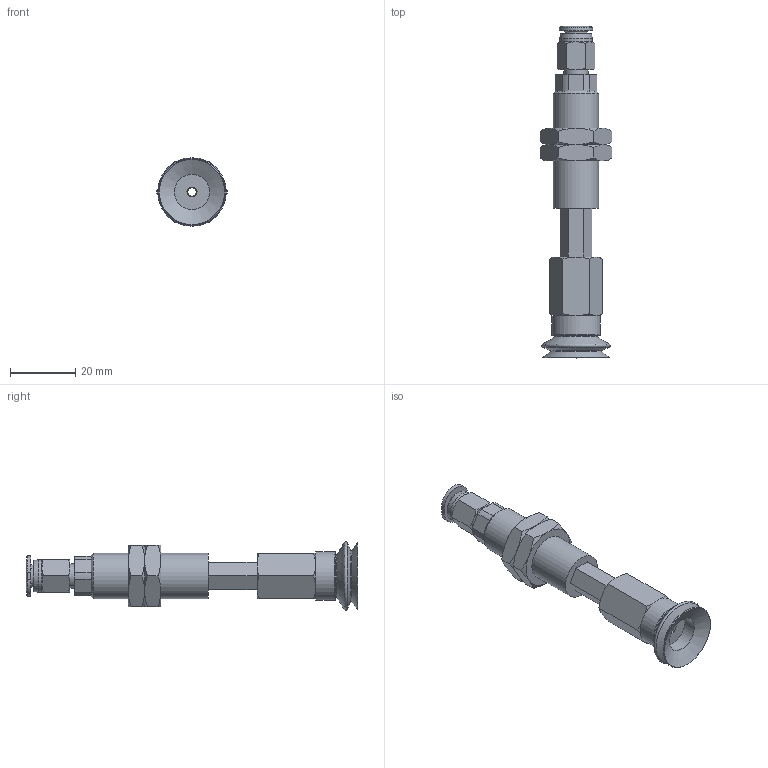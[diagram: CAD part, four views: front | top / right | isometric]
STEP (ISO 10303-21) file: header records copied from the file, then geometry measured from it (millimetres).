
FILE_DESCRIPTION(('STEP AP203'),'1');
FILE_NAME('-O.stp','2025-08-27T06:57:03',(' '),(' '),'Spatial InterOp 3D',' ',' ');
FILE_SCHEMA(('CONFIG_CONTROL_DESIGN'));
Length unit declared in the file: millimetre
Products named in the file (8): BNABPJTH-20-15-※-O; ADAPTER; NAPBTH-20-15-MBODY; Adapter-20-NAPJ; NAPJH-20-15-NUT; NAPJTH-20-15-FBODY; BPJG-20-※; PC-C_06-M5
Assembly tree (8 placements, depth 2):
  BNABPJTH-20-15-※-O
    ADAPTER
    NAPBTH-20-15-MBODY
    Adapter-20-NAPJ
    NAPJH-20-15-NUT  x2
    NAPJTH-20-15-FBODY
    BPJG-20-※
    PC-C_06-M5
Bounding box: 21.94 x 101.98 x 21 mm (x, y, z)
Volume: 13208.4 mm3; surface area: 11680.5 mm2
Topology: 7 solids, 10 shells, 188 faces, 404 edges, 247 vertices
Faces by surface type: plane 79, cone 65, cylinder 28, torus 9, bspline 4, revolution 3
Full cylindrical faces by diameter (mm): 2.5 x1, 3 x2, 4 x2, 4.134 x2, 4.6 x1, 5 x2, 7 x1, 7.4 x1, 8.2 x1, 10 x1, 10.8 x1, 11 x1, 13.188 x2, 14 x1, 15 x1
Entity records: 5036 total; most frequent: CARTESIAN_POINT 1371, DIRECTION 675, ORIENTED_EDGE 600, EDGE_CURVE 302, AXIS2_PLACEMENT_3D 282, EDGE_LOOP 236, VERTEX_POINT 210, FACE_OUTER_BOUND 133
